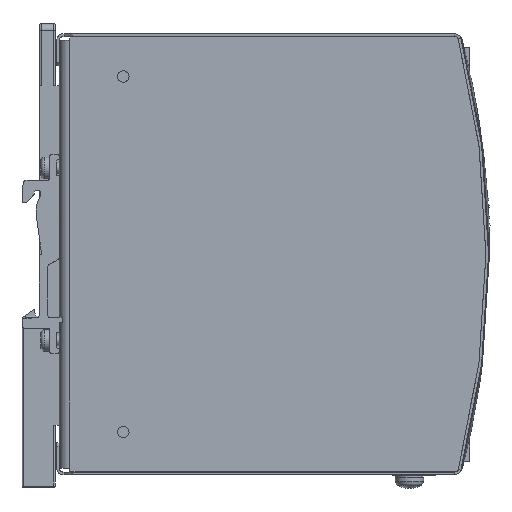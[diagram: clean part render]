
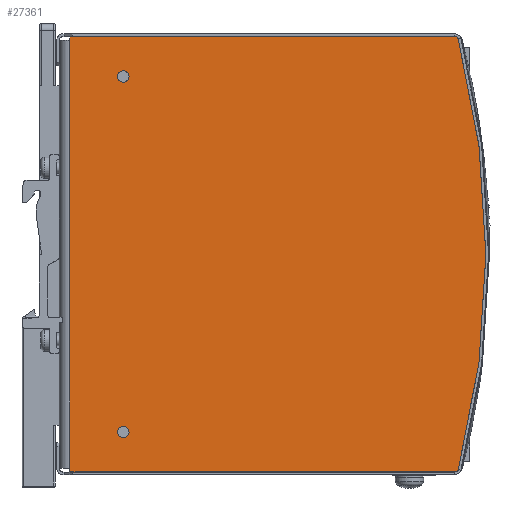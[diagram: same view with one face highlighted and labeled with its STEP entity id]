
A CAD part, front view. The second image highlights one B-rep face of the part: STEP entity #27361.
In plain terms, the highlighted planar face has unit normal (0, -1, 0) as drawn and (-1, 0, 0) by its records, which use the part's own axes.
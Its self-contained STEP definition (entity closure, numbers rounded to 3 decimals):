
#957=FACE_BOUND('',#4018,.T.);
#958=FACE_BOUND('',#4019,.T.);
#1257=PLANE('',#29272);
#2520=FACE_OUTER_BOUND('',#4017,.T.);
#4017=EDGE_LOOP('',(#19084,#19085,#19086,#19087,#19088,#19089,#19090,#19091));
#4018=EDGE_LOOP('',(#19092,#19093));
#4019=EDGE_LOOP('',(#19094,#19095));
#5799=LINE('',#38370,#8634);
#5810=LINE('',#38391,#8645);
#5813=LINE('',#38398,#8648);
#5815=LINE('',#38403,#8650);
#5816=LINE('',#38404,#8651);
#8634=VECTOR('',#31416,10.);
#8645=VECTOR('',#31437,10.);
#8648=VECTOR('',#31448,10.);
#8650=VECTOR('',#31456,10.);
#8651=VECTOR('',#31457,10.);
#11427=CIRCLE('',#29210,1.6);
#11428=CIRCLE('',#29211,1.6);
#11431=CIRCLE('',#29215,1.6);
#11432=CIRCLE('',#29216,1.6);
#11445=CIRCLE('',#29239,0.5);
#11448=CIRCLE('',#29243,240.);
#11456=CIRCLE('',#29257,0.5);
#12113=VERTEX_POINT('',#38222);
#12114=VERTEX_POINT('',#38223);
#12117=VERTEX_POINT('',#38232);
#12118=VERTEX_POINT('',#38233);
#12145=VERTEX_POINT('',#38305);
#12146=VERTEX_POINT('',#38306);
#12150=VERTEX_POINT('',#38316);
#12164=VERTEX_POINT('',#38357);
#12166=VERTEX_POINT('',#38363);
#12167=VERTEX_POINT('',#38369);
#12170=VERTEX_POINT('',#38382);
#12172=VERTEX_POINT('',#38389);
#14833=EDGE_CURVE('',#12113,#12114,#11427,.T.);
#14834=EDGE_CURVE('',#12114,#12113,#11428,.T.);
#14838=EDGE_CURVE('',#12117,#12118,#11431,.T.);
#14839=EDGE_CURVE('',#12118,#12117,#11432,.T.);
#14873=EDGE_CURVE('',#12145,#12146,#11445,.T.);
#14879=EDGE_CURVE('',#12145,#12150,#11448,.T.);
#14900=EDGE_CURVE('',#12164,#12150,#11456,.T.);
#14906=EDGE_CURVE('',#12166,#12167,#5799,.T.);
#14918=EDGE_CURVE('',#12172,#12170,#5810,.T.);
#14921=EDGE_CURVE('',#12146,#12172,#5813,.T.);
#14923=EDGE_CURVE('',#12167,#12164,#5815,.T.);
#14924=EDGE_CURVE('',#12170,#12166,#5816,.T.);
#19084=ORIENTED_EDGE('',*,*,#14873,.F.);
#19085=ORIENTED_EDGE('',*,*,#14879,.T.);
#19086=ORIENTED_EDGE('',*,*,#14900,.F.);
#19087=ORIENTED_EDGE('',*,*,#14923,.F.);
#19088=ORIENTED_EDGE('',*,*,#14906,.F.);
#19089=ORIENTED_EDGE('',*,*,#14924,.F.);
#19090=ORIENTED_EDGE('',*,*,#14918,.F.);
#19091=ORIENTED_EDGE('',*,*,#14921,.F.);
#19092=ORIENTED_EDGE('',*,*,#14833,.T.);
#19093=ORIENTED_EDGE('',*,*,#14834,.T.);
#19094=ORIENTED_EDGE('',*,*,#14838,.T.);
#19095=ORIENTED_EDGE('',*,*,#14839,.T.);
#27361=ADVANCED_FACE('',(#2520,#957,#958),#1257,.F.);
#29210=AXIS2_PLACEMENT_3D('',#38224,#31272,#31273);
#29211=AXIS2_PLACEMENT_3D('',#38225,#31274,#31275);
#29215=AXIS2_PLACEMENT_3D('',#38234,#31283,#31284);
#29216=AXIS2_PLACEMENT_3D('',#38235,#31285,#31286);
#29239=AXIS2_PLACEMENT_3D('',#38307,#31352,#31353);
#29243=AXIS2_PLACEMENT_3D('',#38318,#31363,#31364);
#29257=AXIS2_PLACEMENT_3D('',#38359,#31404,#31405);
#29272=AXIS2_PLACEMENT_3D('',#38402,#31454,#31455);
#31272=DIRECTION('center_axis',(1.,0.,0.));
#31273=DIRECTION('ref_axis',(0.,0.,
1.));
#31274=DIRECTION('center_axis',(1.,0.,0.));
#31275=DIRECTION('ref_axis',(0.,0.,
1.));
#31283=DIRECTION('center_axis',(1.,0.,0.));
#31284=DIRECTION('ref_axis',(0.,0.,
1.));
#31285=DIRECTION('center_axis',(1.,0.,0.));
#31286=DIRECTION('ref_axis',(0.,0.,
1.));
#31352=DIRECTION('center_axis',(1.,0.,0.));
#31353=DIRECTION('ref_axis',(0.,-0.611,-0.792));
#31363=DIRECTION('center_axis',(-1.,0.,0.));
#31364=DIRECTION('ref_axis',(0.,-0.967,0.255));
#31404=DIRECTION('center_axis',(1.,0.,0.));
#31405=DIRECTION('ref_axis',(0.,-0.611,0.792));
#31416=DIRECTION('',(0.,0.,1.));
#31437=DIRECTION('',(0.,0.,1.));
#31448=DIRECTION('',(0.,1.,0.));
#31454=DIRECTION('center_axis',(1.,0.,0.));
#31455=DIRECTION('ref_axis',(0.,0.,-1.));
#31456=DIRECTION('',(0.,-1.,0.));
#31457=DIRECTION('',(0.,0.,1.));
#38222=CARTESIAN_POINT('',(-29.5,-18.,-48.4));
#38223=CARTESIAN_POINT('',(-29.5,-18.,-51.6));
#38224=CARTESIAN_POINT('Origin',(-29.5,-18.,-50.));
#38225=CARTESIAN_POINT('Origin',(-29.5,-18.,-50.));
#38232=CARTESIAN_POINT('',(-29.5,-18.,51.6));
#38233=CARTESIAN_POINT('',(-29.5,-18.,48.4));
#38234=CARTESIAN_POINT('Origin',(-29.5,-18.,50.));
#38235=CARTESIAN_POINT('Origin',(-29.5,-18.,50.));
#38305=CARTESIAN_POINT('',(-29.5,-112.177,-60.777));
#38306=CARTESIAN_POINT('',(-29.5,-111.693,-61.15));
#38307=CARTESIAN_POINT('Origin',(-29.5,-111.693,-60.65));
#38316=CARTESIAN_POINT('',(-29.5,-112.177,60.777));
#38318=CARTESIAN_POINT('Origin',(-29.5,120.,0.));
#38357=CARTESIAN_POINT('',(-29.5,-111.693,61.15));
#38359=CARTESIAN_POINT('Origin',(-29.5,-111.693,60.65));
#38363=CARTESIAN_POINT('',(-29.5,-3.,60.15));
#38369=CARTESIAN_POINT('',(-29.5,-3.,61.15));
#38370=CARTESIAN_POINT('',(-29.5,-3.,0.));
#38382=CARTESIAN_POINT('',(-29.5,-3.,-60.15));
#38389=CARTESIAN_POINT('',(-29.5,-3.,-61.15));
#38391=CARTESIAN_POINT('',(-29.5,-3.,0.));
#38398=CARTESIAN_POINT('',(-29.5,56.786,-61.15));
#38402=CARTESIAN_POINT('Origin',(-29.5,26.893,0.));
#38403=CARTESIAN_POINT('',(-29.5,-120.,61.15));
#38404=CARTESIAN_POINT('',(-29.5,-3.,0.));
